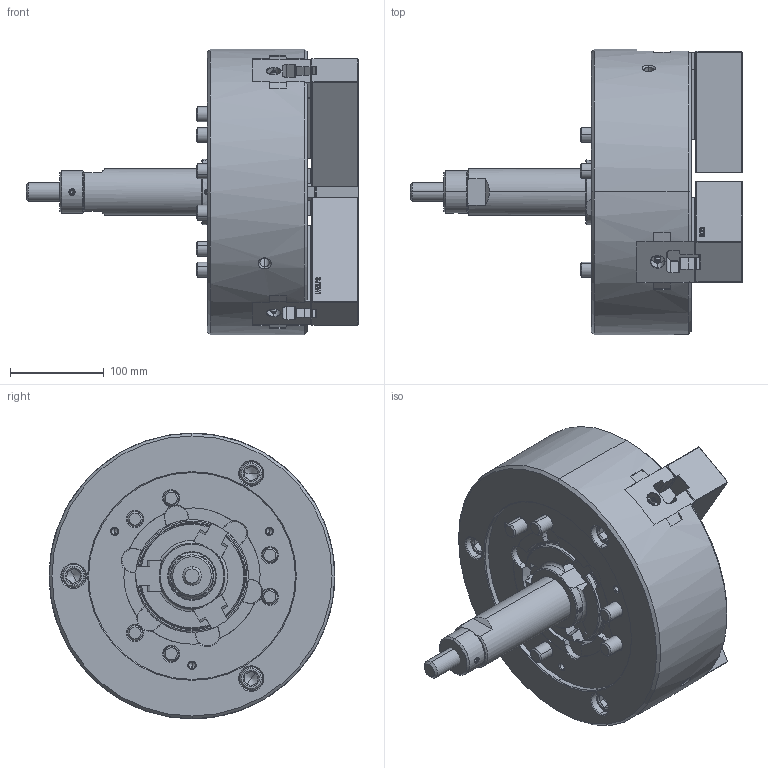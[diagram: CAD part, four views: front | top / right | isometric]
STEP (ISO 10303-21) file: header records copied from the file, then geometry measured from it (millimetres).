
FILE_DESCRIPTION (( 'STEP AP214' ), '1' );
FILE_NAME ('DT1_N-12_OUTSIDE_VIEW_OC.STEP', '2026-03-12T00:51:51', ( '' ), ( '' ), 'SwSTEP 2.0', 'SolidWorks 2022', '' );
FILE_SCHEMA (( 'AUTOMOTIVE_DESIGN' ));
Length unit declared in the file: millimetre
Products named in the file (11): DT1_N-12_DN^DT1_N-12; DT1_N-12_COVER^DT1_N-12; DT1_N-12_M16x100^DT1_N-12; DT1_N-12_OUTSIDE_VIEW_OC; DT1_N-12_TNUT^DT1_N-12; DT1_N-12_M14x45^DT1_N-12; DT1_N-12_SOFTJAW^DT1_N-12; DT1_N-12_DRAWSCREW^DT1_N-12; DT1_N-12_M5x12^DT1_N-12; DT1_N-12_BASE^DT1_N-12; Copy of 61P312753^DT1_N-12
Assembly tree (26 placements, depth 2):
  DT1_N-12_OUTSIDE_VIEW_OC
    DT1_N-12_SOFTJAW^DT1_N-12  x3
    DT1_N-12_TNUT^DT1_N-12  x3
    DT1_N-12_COVER^DT1_N-12
    DT1_N-12_DRAWSCREW^DT1_N-12
    Copy of 61P312753^DT1_N-12
    DT1_N-12_DN^DT1_N-12
    DT1_N-12_BASE^DT1_N-12
    DT1_N-12_M5x12^DT1_N-12  x3
    DT1_N-12_M14x45^DT1_N-12  x6
    DT1_N-12_M16x100^DT1_N-12  x6
Bounding box: 353.2 x 304 x 304 mm (x, y, z)
Volume: 8323205.5 mm3; surface area: 682782.5 mm2
Topology: 26 solids, 26 shells, 5110 faces, 14505 edges, 9510 vertices
Faces by surface type: plane 3698, cylinder 685, cone 434, bspline 225, torus 62, sphere 6
Entity records: 119924 total; most frequent: CARTESIAN_POINT 32053, ORIENTED_EDGE 19722, DIRECTION 15995, EDGE_CURVE 9861, LINE 7389, VECTOR 7389, VERTEX_POINT 6486, AXIS2_PLACEMENT_3D 4303
